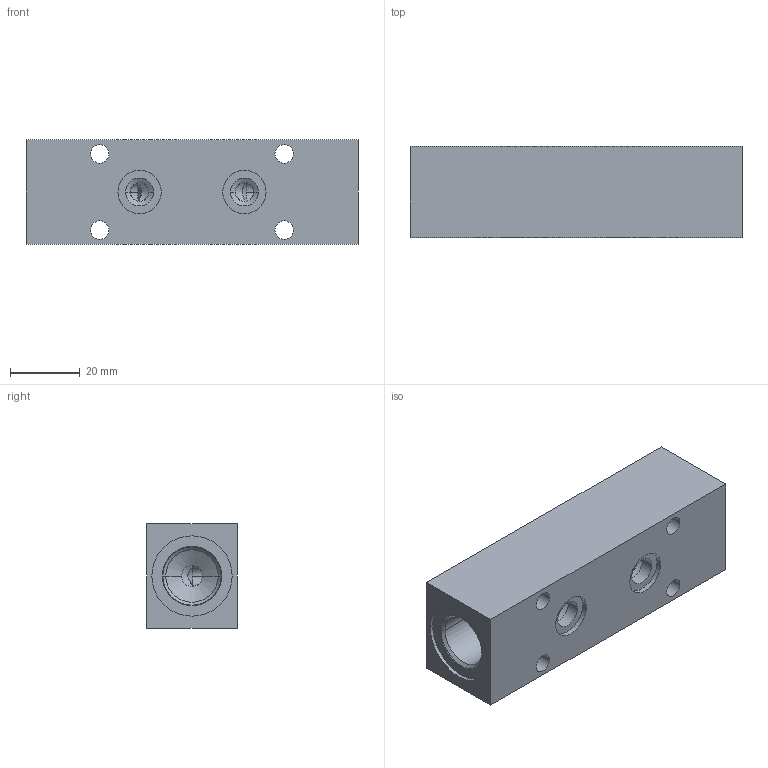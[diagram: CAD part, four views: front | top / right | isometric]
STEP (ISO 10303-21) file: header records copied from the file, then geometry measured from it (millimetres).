
FILE_DESCRIPTION((''),'2;1');
FILE_NAME('28571401','2020-09-09T',('l.soukupova'),(''),'PRO/ENGINEER BY PARAMETRIC TECHNOLOGY CORPORATION, 2015440','PRO/ENGINEER BY PARAMETRIC TECHNOLOGY CORPORATION, 2015440','');
FILE_SCHEMA(('AUTOMOTIVE_DESIGN { 1 0 10303 214 1 1 1 1 }'));
Length unit declared in the file: millimetre
Products named in the file (1): 28571401
Bounding box: 95 x 26 x 30 mm (x, y, z)
Volume: 63335.8 mm3; surface area: 17564 mm2
Topology: 1 solids, 3 shells, 64 faces, 177 edges, 138 vertices
Faces by surface type: cylinder 36, cone 16, plane 12
Entity records: 2877 total; most frequent: CARTESIAN_POINT 548, DIRECTION 381, ORIENTED_EDGE 292, PRESENTATION_STYLE_ASSIGNMENT 185, STYLED_ITEM 185, CURVE_STYLE 182, EDGE_CURVE 150, AXIS2_PLACEMENT_3D 147
